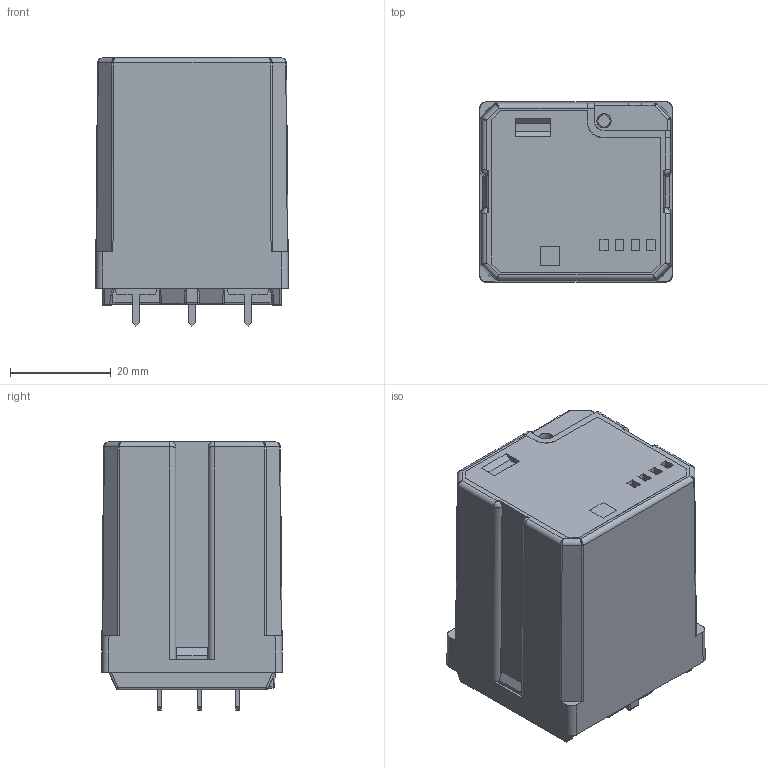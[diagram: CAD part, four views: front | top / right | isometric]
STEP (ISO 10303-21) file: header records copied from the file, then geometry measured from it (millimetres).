
FILE_DESCRIPTION(('STEP AP214'),'2;1');
FILE_NAME('6223-0300.stp','2011-09-07T17:20:37',(''),(''),'2007.1.106','THINKDESIGN','');
FILE_SCHEMA(('AUTOMOTIVE_DESIGN'));
Length unit declared in the file: millimetre
Products named in the file (1): None
Bounding box: 38.2 x 35.8 x 53.11 mm (x, y, z)
Surface area: 10995.1 mm2 (no closed solid volume)
Topology: 0 solids, 0 shells, 448 faces, 2473 edges, 2444 vertices
Faces by surface type: plane 274, cylinder 112, bspline 62
Full cylindrical faces by diameter (mm): 5 x1
Entity records: 27887 total; most frequent: CARTESIAN_POINT 10290, DIRECTION 2937, COMPOSITE_CURVE_SEGMENT 2449, TRIMMED_CURVE 2031, VECTOR 1901, LINE 1901, AXIS2_PLACEMENT_3D 518, OUTER_BOUNDARY_CURVE 448
